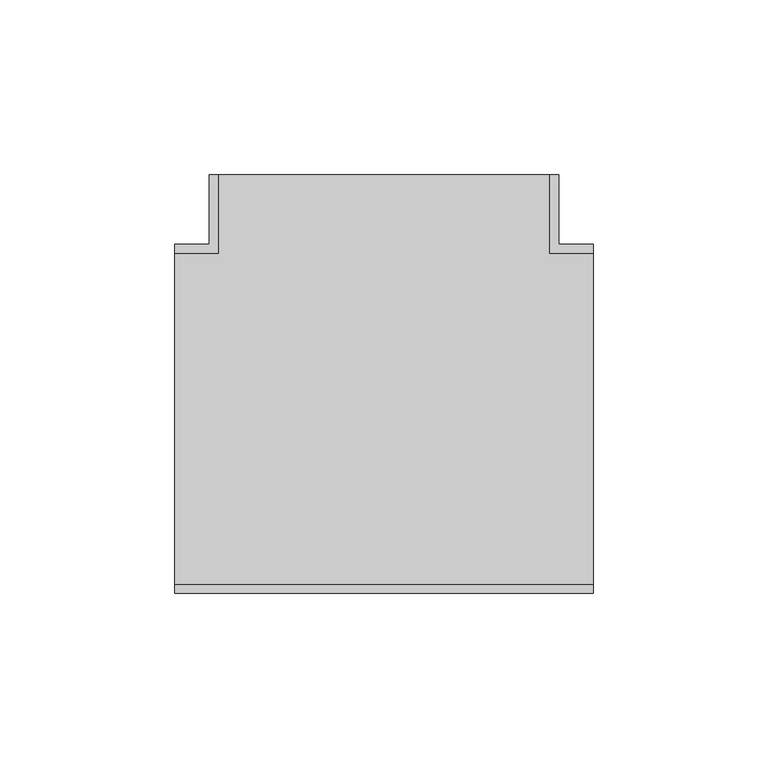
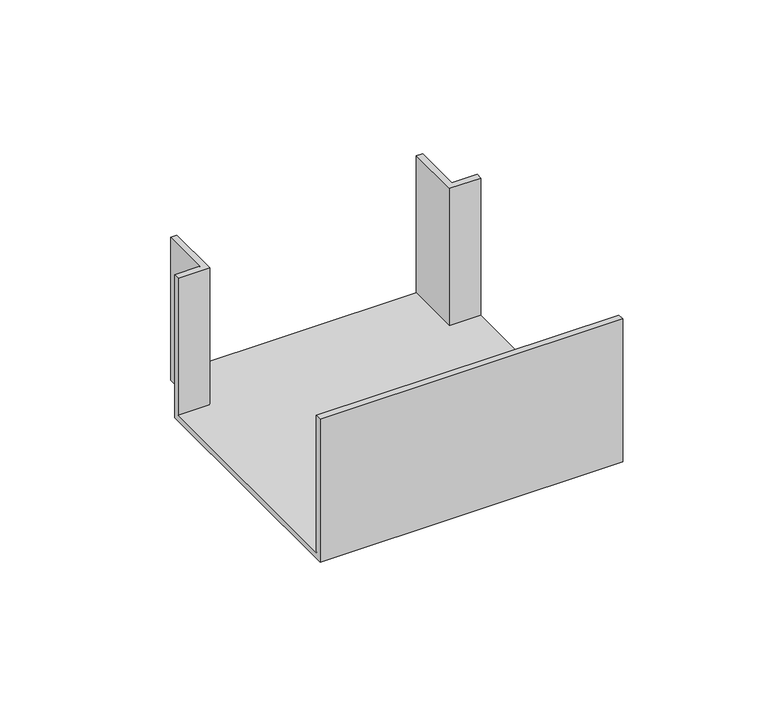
"""IFC4 building model written with IfcOpenShell, lengths in millimetres: cable carrier fitting geometry, КНС_ТройникNTAN_ILC_DKC : Тройник/отвод."""

from ifc_helpers import new_model, si_unit, origin, place, context, project, spatial, faceted_brep, source, transform, mapped, element, save


def cable_carrier_fitting_b130910e(model_context):
    return source(origin(), model_context, "Body", "Brep", [
        faceted_brep([(60.0, -47.5, -27.5), (60.0, 47.5, -27.5), (47.5, 47.5, -27.5), (47.5, 70.0, -27.5), (-47.5, 70.0, -27.5), (-47.5, 47.5, -27.5), (-60.0, 47.5, -27.5), (-60.0, -47.5, -27.5), (60.0, -50.0, -30.0), (-60.0, -50.0, -30.0), (-60.0, 50.0, -30.0), (-50.0, 50.0, -30.0), (-50.0, 70.0, -30.0), (50.0, 70.0, -30.0), (50.0, 50.0, -30.0), (60.0, 50.0, -30.0), (60.0, 50.0, 30.0), (60.0, 47.5, 30.0), (60.0, -47.5, 30.0), (60.0, -50.0, 30.0), (50.0, 50.0, 30.0), (50.0, 70.0, 30.0), (-50.0, 70.0, 30.0), (-47.5, 70.0, 30.0), (47.5, 70.0, 30.0), (-50.0, 50.0, 30.0), (-60.0, 50.0, 30.0), (-60.0, -50.0, 30.0), (-60.0, -47.5, 30.0), (-60.0, 47.5, 30.0), (47.5, 47.5, 30.0), (-47.5, 47.5, 30.0)], [[[0, 1, 2, 3, 4, 5, 6, 7]], [[8, 9, 10, 11, 12, 13, 14, 15]], [[8, 15, 16, 17, 1, 0, 18, 19]], [[16, 15, 14, 20]], [[20, 14, 13, 21]], [[21, 13, 12, 22, 23, 4, 3, 24]], [[22, 12, 11, 25]], [[25, 11, 10, 26]], [[26, 10, 9, 27, 28, 7, 6, 29]], [[27, 9, 8, 19]], [[20, 21, 24, 30, 17, 16]], [[25, 26, 29, 31, 23, 22]], [[27, 19, 18, 28]], [[31, 29, 6, 5]], [[23, 31, 5, 4]], [[30, 24, 3, 2]], [[17, 30, 2, 1]], [[28, 18, 0, 7]]]),
    ])


if __name__ == "__main__":
    model = new_model("IFC4")
    model_context = context("Model", 3, world=origin())
    ifc_project = project(units=[si_unit("LENGTHUNIT", "METRE", prefix="MILLI")], contexts=[model_context])
    site = spatial("IfcSite", under=ifc_project)
    building = spatial("IfcBuilding", under=site)
    placement = place(None, origin())
    cable_carrier_fitting_shape = cable_carrier_fitting_b130910e(model_context)
    element("IfcCableCarrierFitting", 1, ObjectType="КНС_ТройникNTAN_ILC_DKC : Тройник/отвод", at=placement, inside=building, context=model_context, shape_type="MappedRepresentation", body=[
        mapped(cable_carrier_fitting_shape, transform((0.0, 0.0, 0.0), x_axis=(1.0, 0.0, 0.0), y_axis=(0.0, 1.0, 0.0), z_axis=(0.0, 0.0, 1.0))),
    ])
    save(model, "model.ifc")
